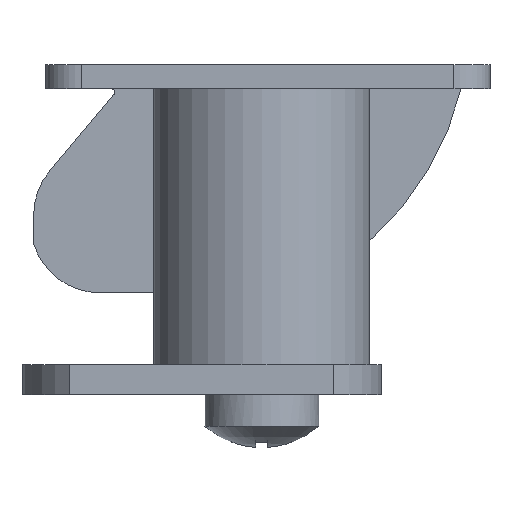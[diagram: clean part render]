
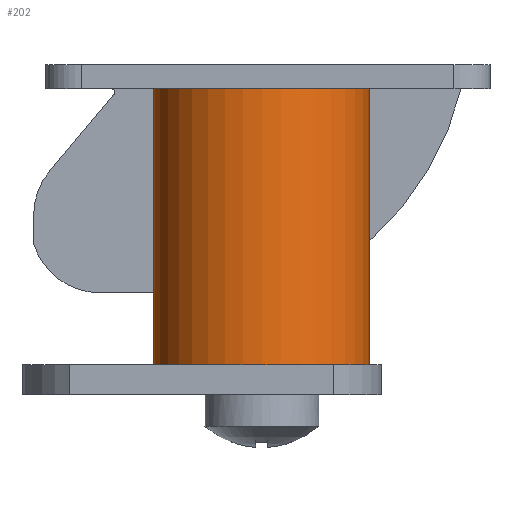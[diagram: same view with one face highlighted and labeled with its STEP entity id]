
A CAD part, left-side view. The second image highlights one B-rep face of the part: STEP entity #202.
In plain terms, the highlighted cylindrical face has radius 9 mm (diameter 18 mm), a full revolution.
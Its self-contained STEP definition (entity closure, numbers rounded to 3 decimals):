
#202 = ADVANCED_FACE( '', ( #333, #334 ), #335, .T. );
#333 = FACE_OUTER_BOUND( '', #527, .T. );
#334 = FACE_OUTER_BOUND( '', #528, .T. );
#335 = CYLINDRICAL_SURFACE( '', #529, 9. );
#527 = EDGE_LOOP( '', ( #911 ) );
#528 = EDGE_LOOP( '', ( #912 ) );
#529 = AXIS2_PLACEMENT_3D( '', #913, #914, #915 );
#911 = ORIENTED_EDGE( '', *, *, #1438, .F. );
#912 = ORIENTED_EDGE( '', *, *, #1452, .T. );
#913 = CARTESIAN_POINT( '', ( 0., 0., -25.5 ) );
#914 = DIRECTION( '', ( 0., 0., 1. ) );
#915 = DIRECTION( '', ( -1., 0., 0. ) );
#1438 = EDGE_CURVE( '', #1716, #1716, #1717, .T. );
#1452 = EDGE_CURVE( '', #1734, #1734, #1735, .F. );
#1716 = VERTEX_POINT( '', #2129 );
#1717 = CIRCLE( '', #2130, 9. );
#1734 = VERTEX_POINT( '', #2160 );
#1735 = CIRCLE( '', #2161, 9. );
#2129 = CARTESIAN_POINT( '', ( -9., 0., -23. ) );
#2130 = AXIS2_PLACEMENT_3D( '', #2608, #2609, #2610 );
#2160 = CARTESIAN_POINT( '', ( 9., 0., 0. ) );
#2161 = AXIS2_PLACEMENT_3D( '', #2624, #2625, #2626 );
#2608 = CARTESIAN_POINT( '', ( 0., 0., -23. ) );
#2609 = DIRECTION( '', ( 0., 0., -1. ) );
#2610 = DIRECTION( '', ( -1., 0., 0. ) );
#2624 = CARTESIAN_POINT( '', ( 0., 0., 0. ) );
#2625 = DIRECTION( '', ( 0., 0., 1. ) );
#2626 = DIRECTION( '', ( 1., 0., 0. ) );
